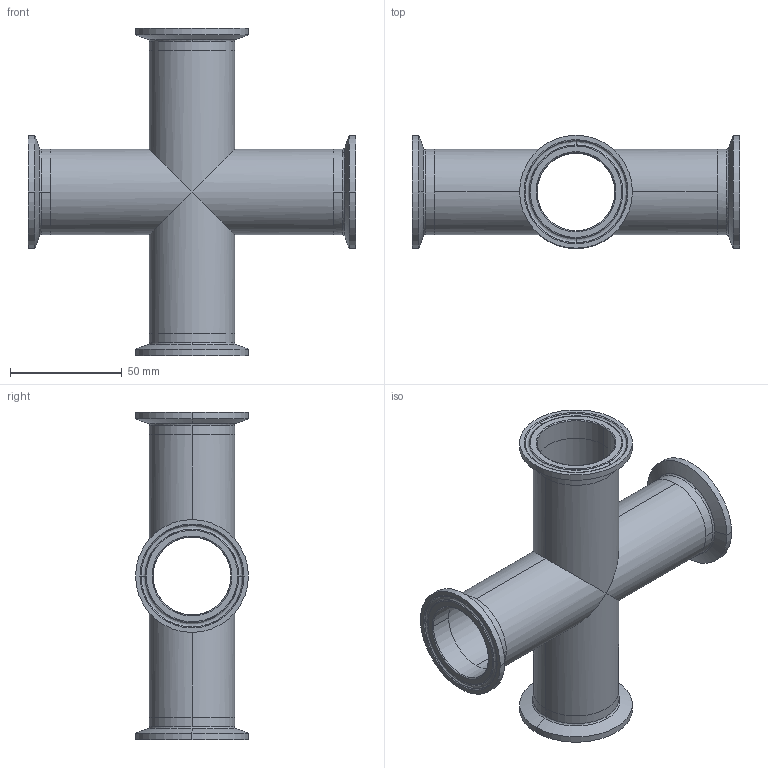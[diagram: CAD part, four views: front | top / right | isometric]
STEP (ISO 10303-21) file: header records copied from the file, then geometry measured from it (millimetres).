
FILE_DESCRIPTION (( 'STEP AP214' ), '1' );
FILE_NAME ('TEG96L1.5-...STEP', '2016-05-22T05:38:21', ( 'eran' ), ( '' ), 'SwSTEP 2.0', 'SolidWorks 2016', '' );
FILE_SCHEMA (( 'AUTOMOTIVE_DESIGN' ));
Length unit declared in the file: millimetre
Products named in the file (1): TEG96L1.5-..
Bounding box: 146.05 x 50.39 x 146.05 mm (x, y, z)
Volume: 59114.2 mm3; surface area: 65087.1 mm2
Topology: 5 solids, 5 shells, 120 faces, 302 edges, 194 vertices
Faces by surface type: cylinder 40, bspline 40, cone 24, plane 16
Entity records: 6270 total; most frequent: CARTESIAN_POINT 3361, DIRECTION 622, ORIENTED_EDGE 604, EDGE_CURVE 302, AXIS2_PLACEMENT_3D 279, CIRCLE 198, VERTEX_POINT 194, EDGE_LOOP 136
